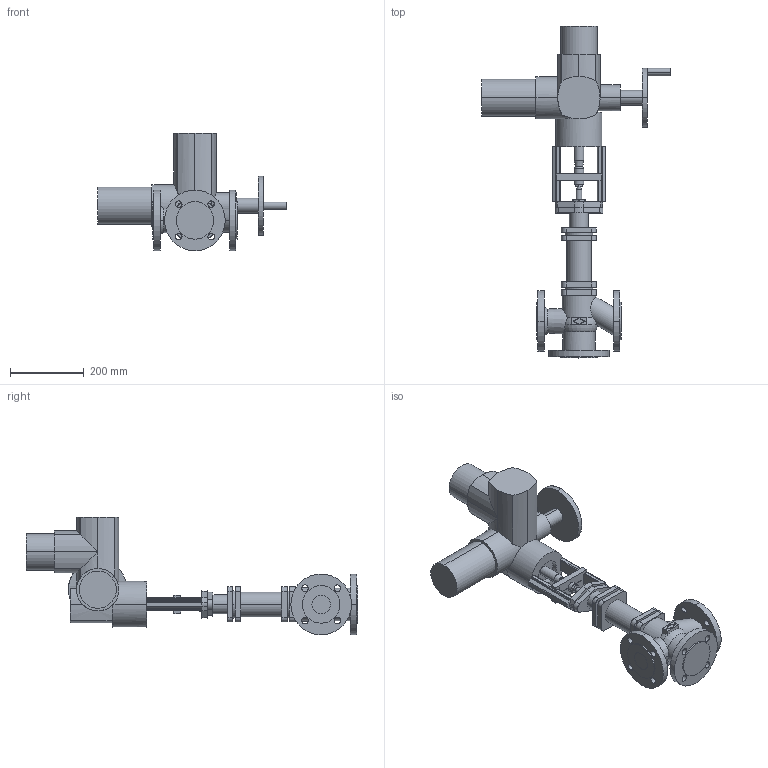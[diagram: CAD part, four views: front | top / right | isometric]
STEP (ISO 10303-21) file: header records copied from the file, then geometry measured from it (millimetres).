
FILE_DESCRIPTION(('OneSpaceDesigner STEP Export'),'2;1');
FILE_NAME('c000003207.stp','2007-01-25T12:00:00',(''),(''),'OneSpace Designer STEP processor for AP214 (Solid Model)','OneSpace Designer 14.00B 27-May-2006 (C) CoCreate Software GmbH','');
FILE_SCHEMA(('AUTOMOTIVE_DESIGN { 1 0 10303 214 1 1 1 1 }'));
Length unit declared in the file: millimetre
Products named in the file (2): 1; 2
Bounding box: 514 x 902.5 x 319.5 mm (x, y, z)
Volume: 12236306.8 mm3; surface area: 767606.9 mm2
Topology: 2 solids, 2 shells, 325 faces, 836 edges, 538 vertices
Faces by surface type: cylinder 160, plane 151, cone 8, torus 6
Entity records: 9611 total; most frequent: CARTESIAN_POINT 2117, ORIENTED_EDGE 1672, DIRECTION 1412, EDGE_CURVE 836, VERTEX_POINT 538, AXIS2_PLACEMENT_3D 477, VECTOR 458, LINE 458
